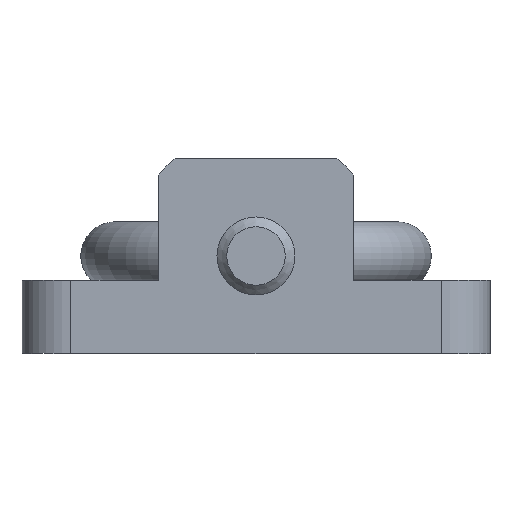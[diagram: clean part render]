
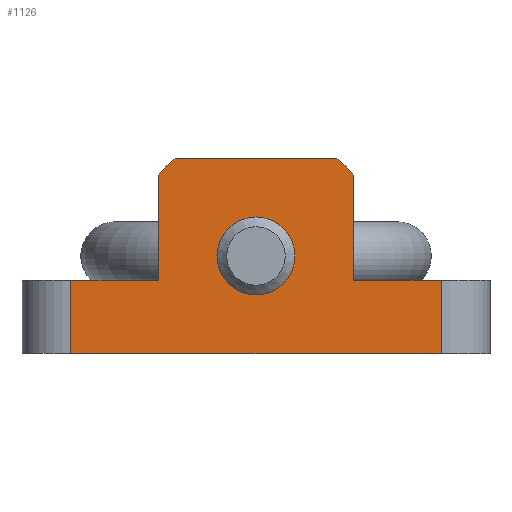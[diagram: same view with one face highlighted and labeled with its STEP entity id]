
A CAD part, front view. The second image highlights one B-rep face of the part: STEP entity #1126.
In plain terms, the highlighted planar face has unit normal (0, -1, 0).
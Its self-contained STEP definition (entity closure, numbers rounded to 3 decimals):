
#50=LINE('',#1776,#150);
#53=LINE('',#1786,#153);
#57=LINE('',#1798,#157);
#64=LINE('',#1820,#164);
#72=LINE('',#1848,#172);
#73=LINE('',#1850,#173);
#74=LINE('',#1851,#174);
#75=LINE('',#1853,#175);
#150=VECTOR('',#1408,1000.);
#153=VECTOR('',#1419,1000.);
#157=VECTOR('',#1431,1000.);
#164=VECTOR('',#1448,1000.);
#172=VECTOR('',#1472,1000.);
#173=VECTOR('',#1473,1000.);
#174=VECTOR('',#1474,1000.);
#175=VECTOR('',#1475,1000.);
#249=PLANE('',#1250);
#407=ORIENTED_EDGE('',*,*,#655,.F.);
#408=ORIENTED_EDGE('',*,*,#620,.F.);
#409=ORIENTED_EDGE('',*,*,#656,.F.);
#410=ORIENTED_EDGE('',*,*,#657,.T.);
#411=ORIENTED_EDGE('',*,*,#642,.F.);
#412=ORIENTED_EDGE('',*,*,#658,.F.);
#413=ORIENTED_EDGE('',*,*,#659,.F.);
#414=ORIENTED_EDGE('',*,*,#631,.F.);
#415=ORIENTED_EDGE('',*,*,#628,.F.);
#416=ORIENTED_EDGE('',*,*,#625,.F.);
#417=ORIENTED_EDGE('',*,*,#622,.F.);
#620=EDGE_CURVE('',#760,#761,#50,.T.);
#622=EDGE_CURVE('',#761,#762,#849,.T.);
#625=EDGE_CURVE('',#762,#764,#53,.T.);
#628=EDGE_CURVE('',#764,#766,#851,.T.);
#631=EDGE_CURVE('',#766,#768,#57,.T.);
#642=EDGE_CURVE('',#778,#779,#64,.T.);
#655=EDGE_CURVE('',#789,#789,#862,.T.);
#656=EDGE_CURVE('',#790,#760,#72,.T.);
#657=EDGE_CURVE('',#790,#779,#73,.T.);
#658=EDGE_CURVE('',#791,#778,#74,.T.);
#659=EDGE_CURVE('',#768,#791,#75,.T.);
#760=VERTEX_POINT('',#1775);
#761=VERTEX_POINT('',#1777);
#762=VERTEX_POINT('',#1781);
#764=VERTEX_POINT('',#1787);
#766=VERTEX_POINT('',#1793);
#768=VERTEX_POINT('',#1799);
#778=VERTEX_POINT('',#1821);
#779=VERTEX_POINT('',#1822);
#789=VERTEX_POINT('',#1847);
#790=VERTEX_POINT('',#1849);
#791=VERTEX_POINT('',#1852);
#849=CIRCLE('',#1232,13.);
#851=CIRCLE('',#1236,13.);
#862=CIRCLE('',#1251,4.);
#927=EDGE_LOOP('',(#407));
#928=EDGE_LOOP('',(#408,#409,#410,#411,#412,#413,#414,#415,#416,#417));
#1027=FACE_BOUND('',#927,.T.);
#1028=FACE_BOUND('',#928,.T.);
#1126=ADVANCED_FACE('',(#1027,#1028),#249,.F.);
#1232=AXIS2_PLACEMENT_3D('',#1780,#1412,#1413);
#1236=AXIS2_PLACEMENT_3D('',#1792,#1424,#1425);
#1250=AXIS2_PLACEMENT_3D('',#1845,#1468,#1469);
#1251=AXIS2_PLACEMENT_3D('',#1846,#1470,#1471);
#1408=DIRECTION('',(0.,0.,1.));
#1412=DIRECTION('',(0.,1.,0.));
#1413=DIRECTION('',(1.,0.,0.));
#1419=DIRECTION('',(1.,0.,0.));
#1424=DIRECTION('',(0.,1.,0.));
#1425=DIRECTION('',(1.,0.,0.));
#1431=DIRECTION('',(0.,0.,-1.));
#1448=DIRECTION('',(-1.,0.,0.));
#1468=DIRECTION('',(0.,1.,0.));
#1469=DIRECTION('',(0.,0.,1.));
#1470=DIRECTION('',(0.,-1.,0.));
#1471=DIRECTION('',(0.,0.,-1.));
#1472=DIRECTION('',(1.,0.,0.));
#1473=DIRECTION('',(0.,0.,-1.));
#1474=DIRECTION('',(0.,0.,-1.));
#1475=DIRECTION('',(1.,0.,0.));
#1775=CARTESIAN_POINT('',(-10.,0.,-2.5));
#1776=CARTESIAN_POINT('',(-10.,0.,-8.307));
#1777=CARTESIAN_POINT('',(-10.,0.,8.307));
#1780=CARTESIAN_POINT('',(0.,0.,0.));
#1781=CARTESIAN_POINT('',(-8.307,0.,10.));
#1786=CARTESIAN_POINT('',(-8.307,0.,10.));
#1787=CARTESIAN_POINT('',(8.307,0.,10.));
#1792=CARTESIAN_POINT('',(0.,0.,0.));
#1793=CARTESIAN_POINT('',(10.,0.,8.307));
#1798=CARTESIAN_POINT('',(10.,0.,8.307));
#1799=CARTESIAN_POINT('',(10.,0.,-2.5));
#1820=CARTESIAN_POINT('',(8.307,0.,-10.));
#1821=CARTESIAN_POINT('',(19.,0.,-10.));
#1822=CARTESIAN_POINT('',(-19.,0.,-10.));
#1845=CARTESIAN_POINT('',(0.,0.,0.));
#1846=CARTESIAN_POINT('',(0.,0.,0.));
#1847=CARTESIAN_POINT('',(0.,0.,-4.));
#1848=CARTESIAN_POINT('',(-19.,0.,-2.5));
#1849=CARTESIAN_POINT('',(-19.,0.,-2.5));
#1850=CARTESIAN_POINT('',(-19.,0.,-2.5));
#1851=CARTESIAN_POINT('',(19.,0.,-2.5));
#1852=CARTESIAN_POINT('',(19.,0.,-2.5));
#1853=CARTESIAN_POINT('',(-19.,0.,-2.5));
